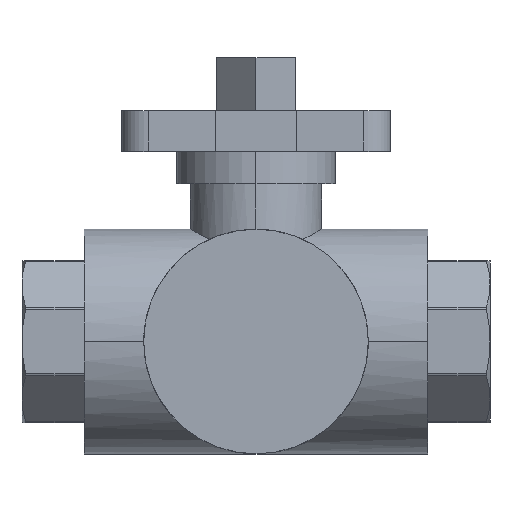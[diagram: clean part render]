
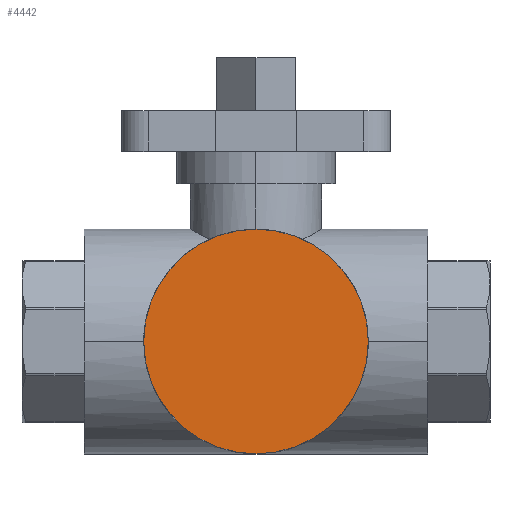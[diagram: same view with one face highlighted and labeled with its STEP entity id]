
A CAD part, top view. The second image highlights one B-rep face of the part: STEP entity #4442.
In plain terms, the highlighted planar face has unit normal (0, 0, 1).
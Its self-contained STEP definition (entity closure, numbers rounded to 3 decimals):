
#13 = CARTESIAN_POINT ( 'NONE',  ( 0., 0., 18. ) ) ;
#25 = VERTEX_POINT ( 'NONE', #3931 ) ;
#453 = DIRECTION ( 'NONE',  ( 1., 0., 0. ) ) ;
#475 = ORIENTED_EDGE ( 'NONE', *, *, #2812, .T. ) ;
#998 = PLANE ( 'NONE',  #3735 ) ;
#1424 = CARTESIAN_POINT ( 'NONE',  ( 0., 18., 18. ) ) ;
#1445 = DIRECTION ( 'NONE',  ( -1., 0., 0. ) ) ;
#1654 = CIRCLE ( 'NONE', #4282, 18. ) ;
#1672 = ORIENTED_EDGE ( 'NONE', *, *, #1761, .T. ) ;
#1761 = EDGE_CURVE ( 'NONE', #25, #4077, #1654, .T. ) ;
#2452 = CARTESIAN_POINT ( 'NONE',  ( 0., 0., 18. ) ) ;
#2812 = EDGE_CURVE ( 'NONE', #4077, #25, #2850, .T. ) ;
#2850 = CIRCLE ( 'NONE', #2874, 18. ) ;
#2874 = AXIS2_PLACEMENT_3D ( 'NONE', #13, #3040, #453 ) ;
#2895 = DIRECTION ( 'NONE',  ( 1., 0., 0. ) ) ;
#3040 = DIRECTION ( 'NONE',  ( 0., 0., 1. ) ) ;
#3162 = FACE_OUTER_BOUND ( 'NONE', #4186, .T. ) ;
#3735 = AXIS2_PLACEMENT_3D ( 'NONE', #1424, #4002, #1445 ) ;
#3931 = CARTESIAN_POINT ( 'NONE',  ( -18., 0., 18. ) ) ;
#4002 = DIRECTION ( 'NONE',  ( 0., 0., -1. ) ) ;
#4077 = VERTEX_POINT ( 'NONE', #5357 ) ;
#4186 = EDGE_LOOP ( 'NONE', ( #1672, #475 ) ) ;
#4282 = AXIS2_PLACEMENT_3D ( 'NONE', #2452, #5422, #2895 ) ;
#4442 = ADVANCED_FACE ( 'NONE', ( #3162 ), #998, .F. ) ;
#5357 = CARTESIAN_POINT ( 'NONE',  ( 18., 0., 18. ) ) ;
#5422 = DIRECTION ( 'NONE',  ( 0., 0., 1. ) ) ;
